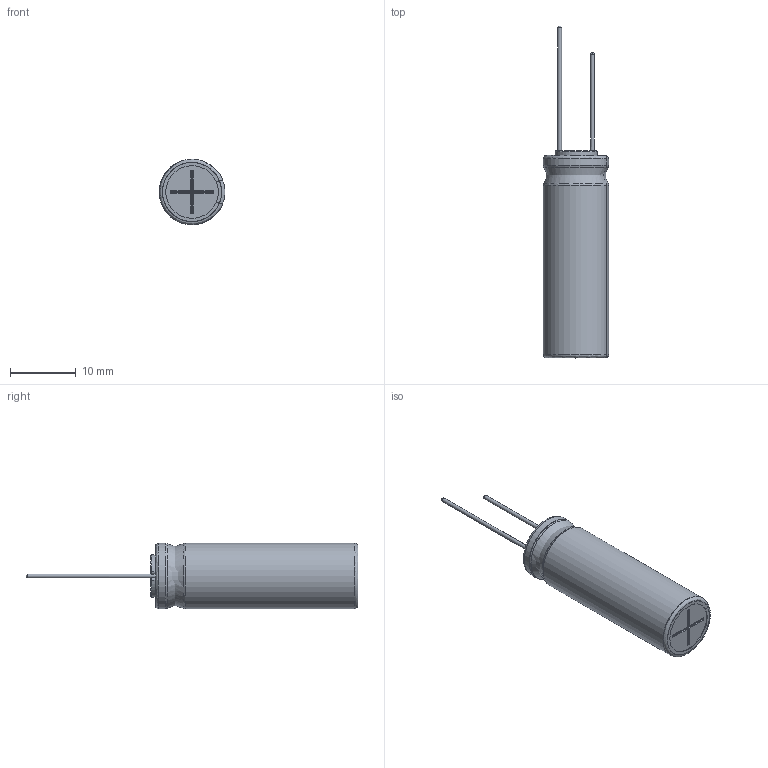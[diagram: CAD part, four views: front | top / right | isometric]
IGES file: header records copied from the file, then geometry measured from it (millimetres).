
Start section: JAMA-IS VERSION  1.0
Bounding box: 9.99 x 50.5 x 10 mm (x, y, z)
Surface area: 3185.9 mm2 (no closed solid volume)
Topology: 0 solids, 0 shells, 115 faces, 1315 edges, 1296 vertices
Faces by surface type: bspline 115
